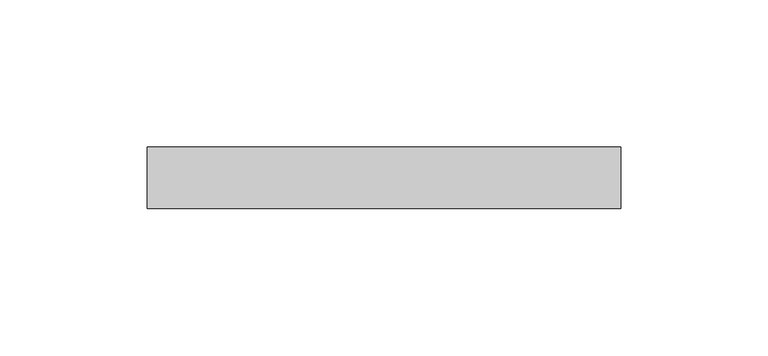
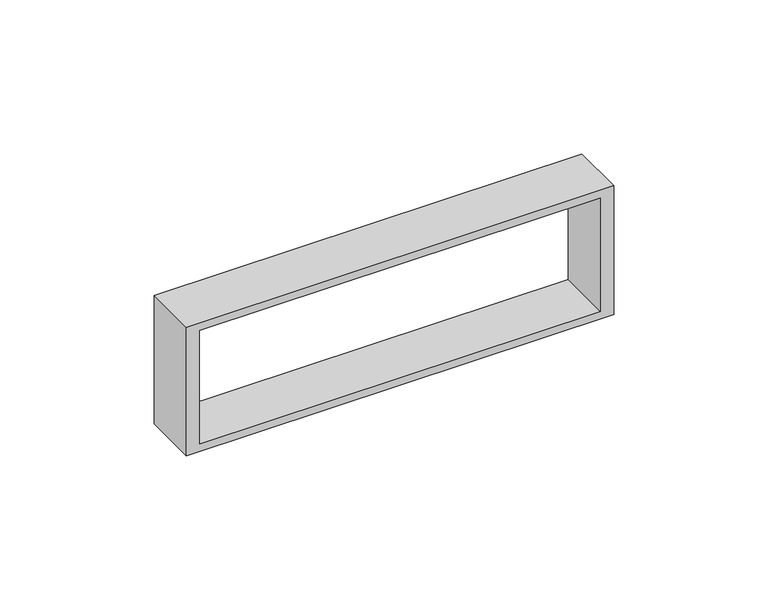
"""IFC4 building model written with IfcOpenShell, lengths in millimetres: proxy geometry, КНС_Каркас6МодулейДляМонтажаЭУИСерииViva_ILF_DKC : Белый."""

from ifc_helpers import new_model, si_unit, frame, origin, place, context, project, spatial, polyline, outline, extrude, source, transform, mapped, element, save


def electrical_fixtures_01b03277(model_context):
    return source(origin(), model_context, "Body", "SweptSolid", [
        extrude(outline(polyline([(25.5, 80.2), (25.5, -80.2), (-25.5, -80.2), (-25.5, 80.2), (25.5, 80.2)]), holes=[polyline([(22.5, 75.0), (-22.5, 75.0), (-22.5, -75.0), (22.5, -75.0), (22.5, 75.0)])]), frame((0.0, 0.0, 0.0), z_axis=(0.0, 1.0, 0.0), x_axis=(0.0, 0.0, 1.0)), (0.0, 0.0, 1.0), 20.8),
    ])


if __name__ == "__main__":
    model = new_model("IFC4")
    model_context = context("Model", 3, world=origin())
    ifc_project = project(units=[si_unit("LENGTHUNIT", "METRE", prefix="MILLI")], contexts=[model_context])
    site = spatial("IfcSite", under=ifc_project)
    building = spatial("IfcBuilding", under=site)
    placement = place(None, origin())
    electrical_fixtures_shape = electrical_fixtures_01b03277(model_context)
    element("IfcBuildingElementProxy", 1, Name="КНС_Каркас6МодулейДляМонтажаЭУИСерииViva_ILF_DKC : Белый", ObjectType="КНС_Каркас6МодулейДляМонтажаЭУИСерииViva_ILF_DKC : Белый", at=placement, inside=building, context=model_context, shape_type="MappedRepresentation", body=[
        mapped(electrical_fixtures_shape, transform((0.0, 0.0, 0.0), x_axis=(1.0, 0.0, 0.0), y_axis=(0.0, 1.0, 0.0), z_axis=(0.0, 0.0, 1.0))),
    ])
    save(model, "model.ifc")
